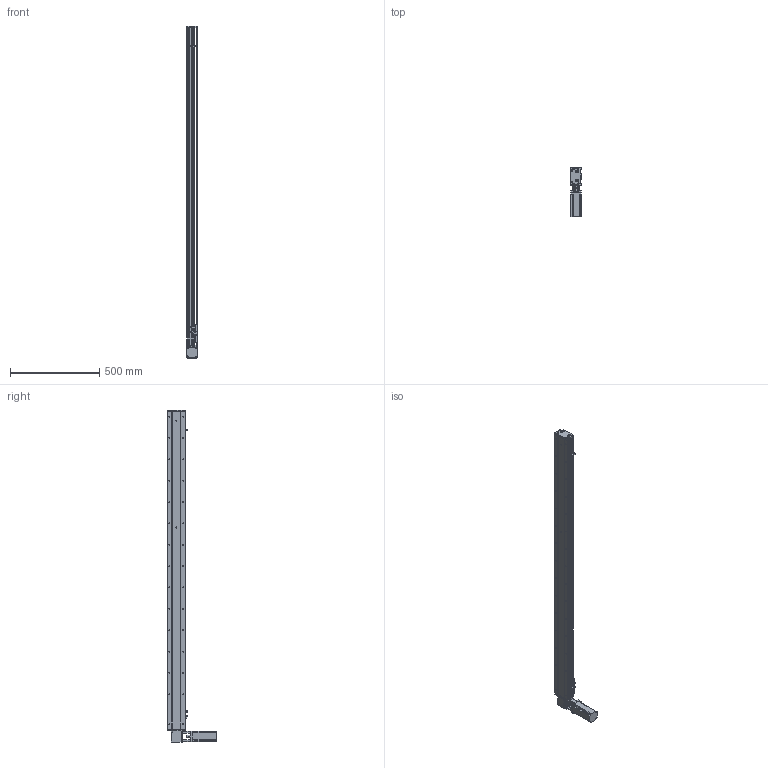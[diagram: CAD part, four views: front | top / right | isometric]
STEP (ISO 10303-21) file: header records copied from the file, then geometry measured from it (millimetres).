
FILE_DESCRIPTION (( 'STEP AP214' ), '1' );
FILE_NAME ('KSD100B-S1600-MLT-CM.STEP', '2019-10-26T06:02:21', ( '微软用户' ), ( '微软中国' ), 'SwSTEP 2.0', 'SolidWorks 2014', '' );
FILE_SCHEMA (( 'AUTOMOTIVE_DESIGN' ));
Length unit declared in the file: millimetre
Products named in the file (12): 100宽同步带安装板半封闭; 100宽马达安装板同步带; 100遵傷啣肮祭湍; 100宽底板半封闭同步带1600行程; KSD100B-S1600-MLT-CM; 100宽安装板同步带带电机座400W,86; 100遵鎮湛假蚾啣1 ; 100宽防尘板1600行程-同步带; U倰嫖萇EEㄜSX672; 覜茼え100遵圉猾敕; 台达ECMA－C20604AS伺服电机; 100宽马达安装板同步带右
Assembly tree (13 placements, depth 2):
  KSD100B-S1600-MLT-CM
    100宽底板半封闭同步带1600行程
    100遵傷啣肮祭湍
    100宽马达安装板同步带
    100宽同步带安装板半封闭
    100宽马达安装板同步带右
    台达ECMA－C20604AS伺服电机
    覜茼え100遵圉猾敕
    U倰嫖萇EEㄜSX672  x3
    100宽防尘板1600行程-同步带
    100遵鎮湛假蚾啣1 
    100宽安装板同步带带电机座400W,86
Bounding box: 61 x 275 x 1865 mm (x, y, z)
Volume: 3891896.6 mm3; surface area: 1308049.6 mm2
Topology: 14 solids, 14 shells, 1626 faces, 4599 edges, 2897 vertices
Faces by surface type: cylinder 852, plane 595, cone 179
Entity records: 58619 total; most frequent: CARTESIAN_POINT 12544, DIRECTION 8039, ORIENTED_EDGE 7746, EDGE_CURVE 3873, AXIS2_PLACEMENT_3D 2978, VERTEX_POINT 2521, LINE 2083, VECTOR 2083
